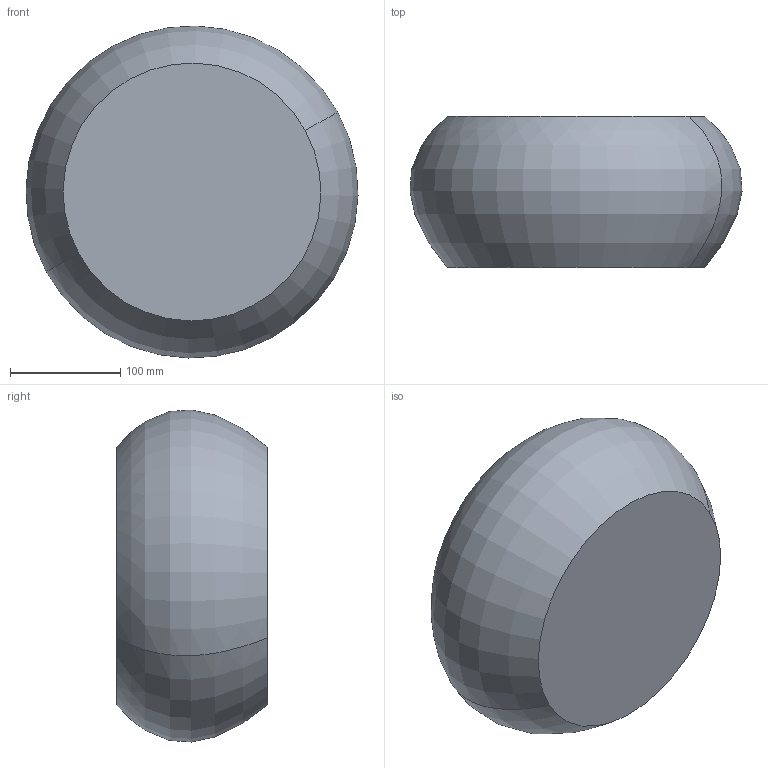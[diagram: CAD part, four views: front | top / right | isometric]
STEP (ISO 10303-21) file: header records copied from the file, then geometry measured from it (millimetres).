
FILE_DESCRIPTION(('CATIA V5 STEP Exchange'),'2;1');
FILE_NAME('C:\_Andres\UNIVERSIDAD\IQS\ASIGNATURAS\DAO\EXF\EXF-15161c\1original\Vallsmadella_Quintanilla_Ej10-decora_v27.stp','2016-03-04T22:24:14+00:00',('none'),('none'),'CATIA Version 5 Release 20 SP 1 (IN-10)','CATIA V5 STEP AP203','none');
FILE_SCHEMA(('CONFIG_CONTROL_DESIGN'));
Length unit declared in the file: millimetre
Products named in the file (1): Vallsmadella_Quintanilla_Ej10-decora_v27
Bounding box: 301.34 x 137 x 301.34 mm (x, y, z)
Volume: 8433566.9 mm3; surface area: 222719.7 mm2
Topology: 1 solids, 1 shells, 4 faces, 6 edges, 4 vertices
Faces by surface type: revolution 2, plane 2
Entity records: 166 total; most frequent: CARTESIAN_POINT 50, DIRECTION 12, ORIENTED_EDGE 12, AXIS2_PLACEMENT_3D 8, EDGE_CURVE 6, ADVANCED_FACE 4, B_SPLINE_CURVE_WITH_KNOTS 4, CC_DESIGN_PERSON_AND_ORGANIZATION_ASSIGNMENT 4
